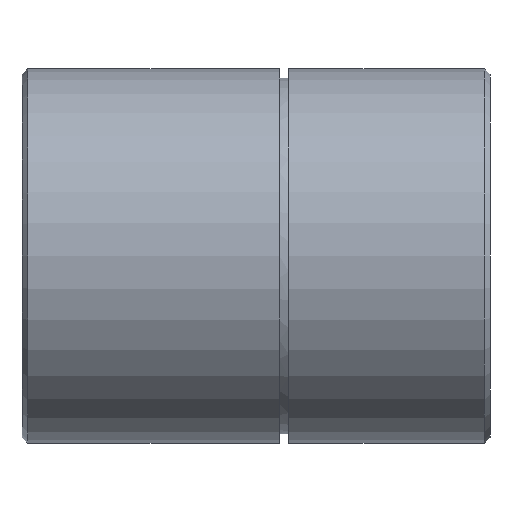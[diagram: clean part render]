
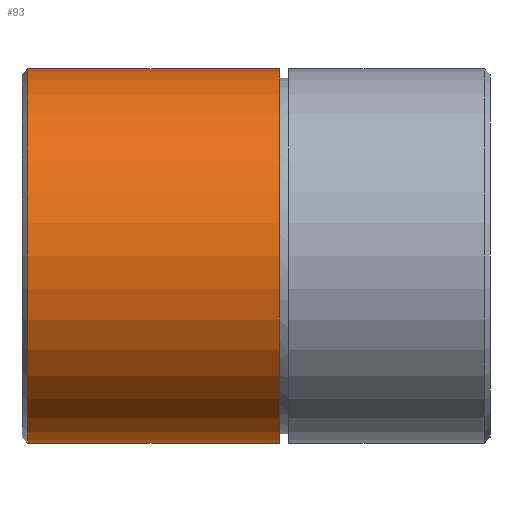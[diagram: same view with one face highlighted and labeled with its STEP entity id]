
A CAD part, left-side view. The second image highlights one B-rep face of the part: STEP entity #93.
In plain terms, the highlighted cylindrical face has radius 10 mm (diameter 20 mm), a partial arc.
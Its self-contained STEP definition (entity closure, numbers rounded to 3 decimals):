
#4 = CYLINDRICAL_SURFACE ( 'NONE', #378, 10. ) ;
#38 = CIRCLE ( 'NONE', #298, 10. ) ;
#46 = ORIENTED_EDGE ( 'NONE', *, *, #268, .T. ) ;
#52 = CARTESIAN_POINT ( 'NONE',  ( 0., 25., 0. ) ) ;
#93 = ADVANCED_FACE ( 'NONE', ( #489 ), #4, .T. ) ;
#107 = DIRECTION ( 'NONE',  ( 0., -1., 0. ) ) ;
#127 = DIRECTION ( 'NONE',  ( 0., 0., 1. ) ) ;
#168 = VECTOR ( 'NONE', #519, 1000. ) ;
#185 = ORIENTED_EDGE ( 'NONE', *, *, #454, .T. ) ;
#196 = DIRECTION ( 'NONE',  ( 0., 0., -1. ) ) ;
#197 = LINE ( 'NONE', #274, #168 ) ;
#202 = CIRCLE ( 'NONE', #377, 10. ) ;
#209 = ORIENTED_EDGE ( 'NONE', *, *, #219, .F. ) ;
#212 = CARTESIAN_POINT ( 'NONE',  ( 0., 25., 10. ) ) ;
#216 = VERTEX_POINT ( 'NONE', #335 ) ;
#219 = EDGE_CURVE ( 'NONE', #498, #382, #404, .T. ) ;
#221 = VECTOR ( 'NONE', #107, 1000. ) ;
#241 = DIRECTION ( 'NONE',  ( 0., -1., 0. ) ) ;
#245 = CARTESIAN_POINT ( 'NONE',  ( 0., 11.25, 0. ) ) ;
#268 = EDGE_CURVE ( 'NONE', #216, #495, #197, .T. ) ;
#274 = CARTESIAN_POINT ( 'NONE',  ( 0., 25., -10. ) ) ;
#298 = AXIS2_PLACEMENT_3D ( 'NONE', #245, #476, #716 ) ;
#324 = DIRECTION ( 'NONE',  ( 0., -1., 0. ) ) ;
#335 = CARTESIAN_POINT ( 'NONE',  ( 0., 24.7, -10. ) ) ;
#353 = CARTESIAN_POINT ( 'NONE',  ( 0., 24.7, 0. ) ) ;
#377 = AXIS2_PLACEMENT_3D ( 'NONE', #353, #241, #127 ) ;
#378 = AXIS2_PLACEMENT_3D ( 'NONE', #52, #324, #196 ) ;
#382 = VERTEX_POINT ( 'NONE', #699 ) ;
#400 = ORIENTED_EDGE ( 'NONE', *, *, #440, .F. ) ;
#404 = LINE ( 'NONE', #212, #221 ) ;
#426 = CARTESIAN_POINT ( 'NONE',  ( 0., 11.25, -10. ) ) ;
#440 = EDGE_CURVE ( 'NONE', #382, #495, #38, .T. ) ;
#454 = EDGE_CURVE ( 'NONE', #498, #216, #202, .T. ) ;
#476 = DIRECTION ( 'NONE',  ( 0., -1., 0. ) ) ;
#489 = FACE_OUTER_BOUND ( 'NONE', #543, .T. ) ;
#495 = VERTEX_POINT ( 'NONE', #426 ) ;
#498 = VERTEX_POINT ( 'NONE', #590 ) ;
#519 = DIRECTION ( 'NONE',  ( 0., -1., 0. ) ) ;
#543 = EDGE_LOOP ( 'NONE', ( #209, #185, #46, #400 ) ) ;
#590 = CARTESIAN_POINT ( 'NONE',  ( 0., 24.7, 10. ) ) ;
#699 = CARTESIAN_POINT ( 'NONE',  ( 0., 11.25, 10. ) ) ;
#716 = DIRECTION ( 'NONE',  ( 0., 0., -1. ) ) ;
